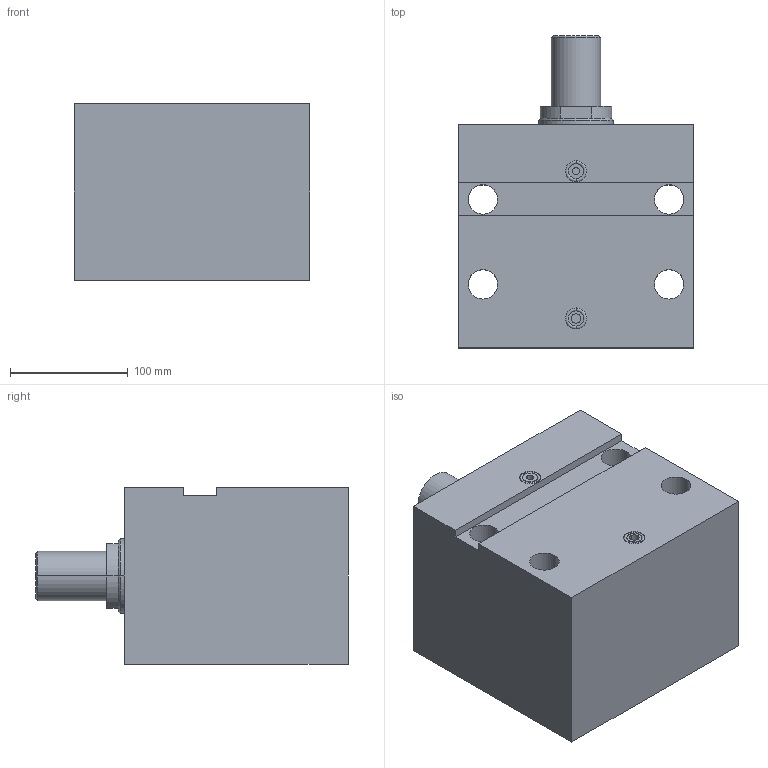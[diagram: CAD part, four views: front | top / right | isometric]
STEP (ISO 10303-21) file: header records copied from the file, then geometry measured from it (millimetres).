
FILE_DESCRIPTION (( 'STEP AP203' ), '1' );
FILE_NAME ('GERMA_Blockzylinder_604-100-100-A.STEP', '2016-01-25T10:42:38', ( '' ), ( '' ), 'SwSTEP 2.0', 'SolidWorks 2015', '' );
FILE_SCHEMA (( 'CONFIG_CONTROL_DESIGN' ));
Length unit declared in the file: millimetre
Products named in the file (3): GERMA_Blockzylinder_604-100-100-A; GH-600-100_GH-604-100-100; Kolben 60x-100_Kolben DU.100-Hub100-AG
Assembly tree (2 placements, depth 2):
  GERMA_Blockzylinder_604-100-100-A
    GH-600-100_GH-604-100-100
    Kolben 60x-100_Kolben DU.100-Hub100-AG
Bounding box: 200 x 265 x 150 mm (x, y, z)
Volume: 5023748.5 mm3; surface area: 359587.5 mm2
Topology: 2 solids, 2 shells, 81 faces, 178 edges, 109 vertices
Faces by surface type: cylinder 39, plane 26, cone 12, torus 4
Entity records: 2534 total; most frequent: DIRECTION 439, CARTESIAN_POINT 369, ORIENTED_EDGE 348, AXIS2_PLACEMENT_3D 179, EDGE_CURVE 174, VERTEX_POINT 109, EDGE_LOOP 101, CIRCLE 93
